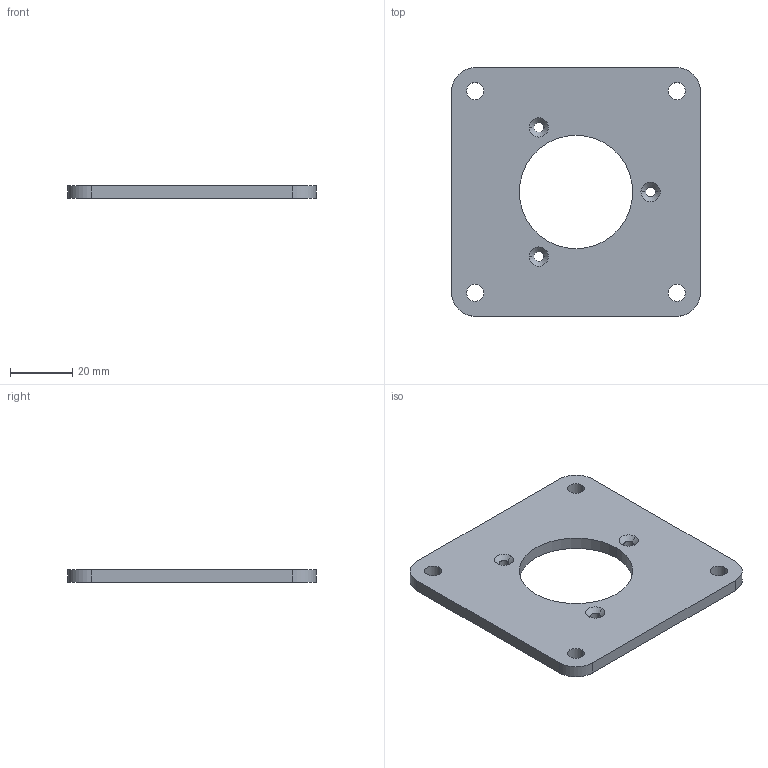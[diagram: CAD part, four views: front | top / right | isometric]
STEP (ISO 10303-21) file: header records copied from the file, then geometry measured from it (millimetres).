
FILE_DESCRIPTION (( 'STEP AP214' ), '1' );
FILE_NAME ('8.0010.2800.0000.STEP', '2014-11-06T12:39:18', ( 'admin' ), ( 'Microsoft' ), 'SwSTEP 2.0', 'SolidWorks 2013', '' );
FILE_SCHEMA (( 'AUTOMOTIVE_DESIGN' ));
Length unit declared in the file: millimetre
Products named in the file (1): 8.0010.2800.0000
Bounding box: 80 x 80 x 4 mm (x, y, z)
Volume: 20700.3 mm3; surface area: 12439 mm2
Topology: 1 solids, 1 shells, 32 faces, 84 edges, 54 vertices
Faces by surface type: cylinder 20, cone 6, plane 6
Entity records: 1072 total; most frequent: DIRECTION 196, CARTESIAN_POINT 171, ORIENTED_EDGE 168, EDGE_CURVE 84, AXIS2_PLACEMENT_3D 79, VERTEX_POINT 54, EDGE_LOOP 48, CIRCLE 46
